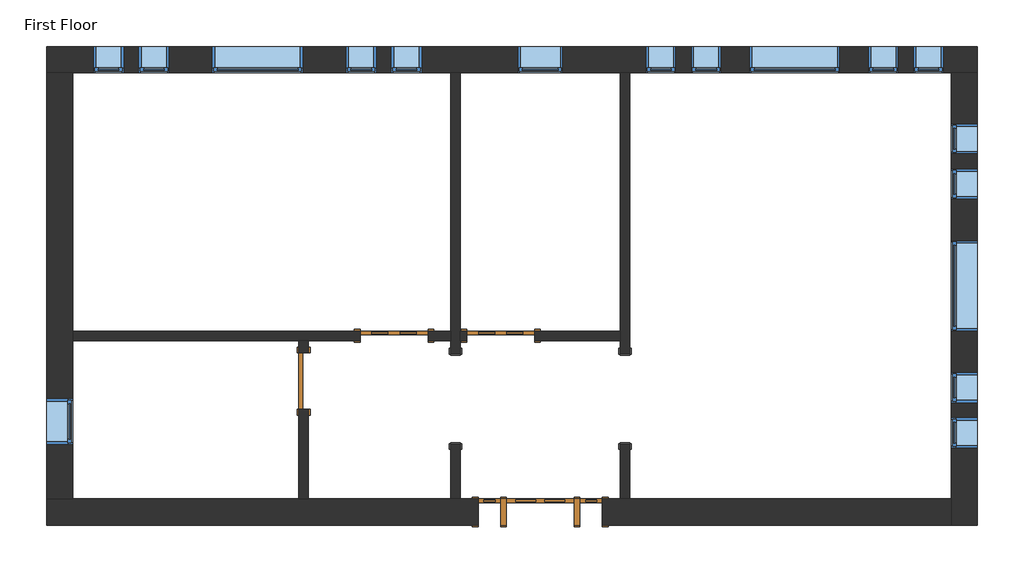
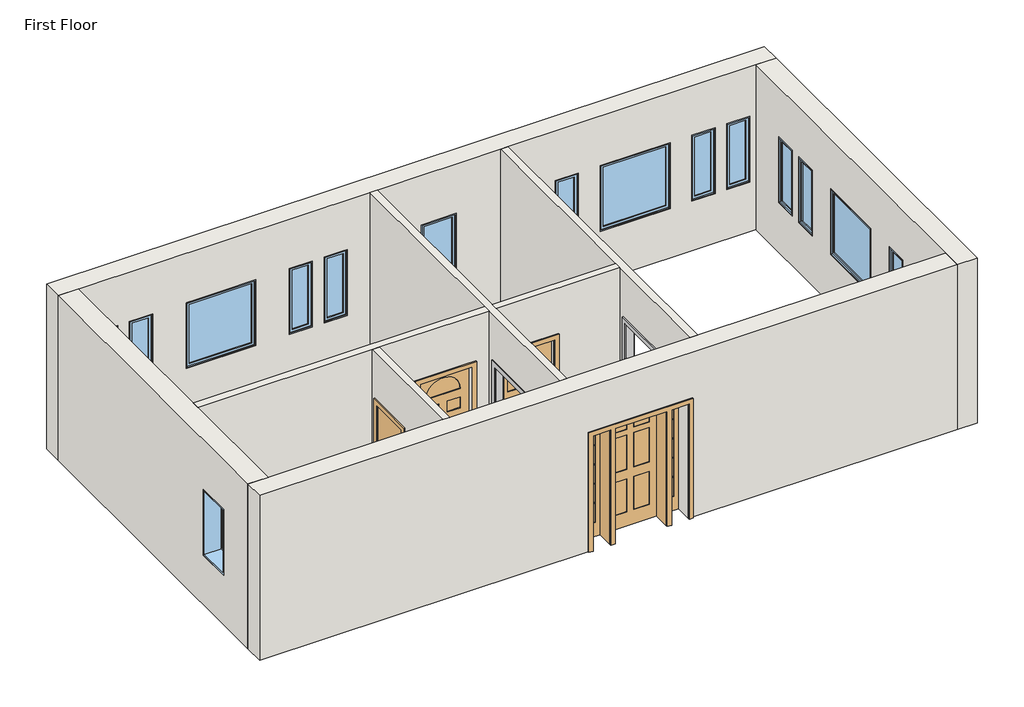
# One storey: 17 windows, 8 walls, 4 doors, 2 proxies.
"""IFC4 building model written with IfcOpenShell, lengths in millimetres."""

from ifc_helpers import new_model, si_unit, frame, origin, place, context, project, spatial, polyline, outline, extrude, faceted_brep, transform, mapped, element, save
from components import proxy_f44482cc, door_829da954, door_2e3b4da2, door_4d6c7550, door_ffdb1193, window_da97879f, window_d61ef850, window_60baf983, window_6eb97611

model = new_model("IFC4")

# Units and contexts
model_context = context("Model", 3, world=origin())
ifc_project = project(units=[si_unit("LENGTHUNIT", "METRE", prefix="MILLI")], contexts=[model_context])

# Site, building, storey
site = spatial("IfcSite", under=ifc_project)
building = spatial("IfcBuilding", under=site)
storey = spatial("IfcBuildingStorey", under=building, Name="First Floor", Elevation=0.0)

# Proxies
placement = place(None, origin())
proxy_shape = proxy_f44482cc(model_context)
element("IfcBuildingElementProxy", 1, Name="Passage Opening-Cased : 48\" x 84\"", ObjectType="Passage Opening-Cased : 48\" x 84\"", at=placement, inside=storey, context=model_context, shape_type="MappedRepresentation", body=[
    mapped(proxy_shape, transform((3208.4428612, 1537.2944757, 0.0), x_axis=(0.0, 1.0, 0.0), y_axis=(-1.0, 0.0, 0.0), z_axis=(0.0, 0.0, 1.0))),
])
element("IfcBuildingElementProxy", 2, Name="Passage Opening-Cased : 48\" x 84\"", ObjectType="Passage Opening-Cased : 48\" x 84\"", at=placement, inside=storey, context=model_context, shape_type="MappedRepresentation", body=[
    mapped(proxy_shape, transform((922.4428612, 1537.2944757, 0.0), x_axis=(0.0, 1.0, 0.0), y_axis=(-1.0, 0.0, 0.0), z_axis=(0.0, 0.0, 1.0))),
])

# Doors
door_shape = door_829da954(model_context)
element("IfcDoor", 3, ObjectType="Single-Decorative 2 : 36\" x 84\"", at=placement, inside=storey, context=model_context, shape_type="MappedRepresentation", body=[
    mapped(door_shape, transform((1532.0428612, 2378.418319, 0.0), x_axis=(-1.0, 0.0, 0.0), y_axis=(0.0, -1.0, 0.0), z_axis=(0.0, 0.0, 1.0))),
])
door_2_shape = door_2e3b4da2(model_context)
element("IfcDoor", 4, ObjectType="Single-Decorative 2 : 36\" x 84\"", at=placement, inside=storey, context=model_context, shape_type="MappedRepresentation", body=[
    mapped(door_2_shape, transform((95.3553612, 2378.418319, 0.0), x_axis=(1.0, 0.0, 0.0), y_axis=(0.0, 1.0, 0.0), z_axis=(0.0, 0.0, 1.0))),
])
door_3_shape = door_4d6c7550(model_context)
element("IfcDoor", 5, ObjectType="Single-Flush : 30\" x 84\"", at=placement, inside=storey, context=model_context, shape_type="MappedRepresentation", body=[
    mapped(door_3_shape, transform((-1123.8446388, 1768.818319, 0.0), x_axis=(0.0, 1.0, 0.0), y_axis=(-1.0, 0.0, 0.0), z_axis=(0.0, 0.0, 1.0))),
])
door_4_shape = door_ffdb1193(model_context)
element("IfcDoor", 6, ObjectType="Single-Raised Panel with Sidelights : 36\" x 84\"", at=placement, inside=storey, context=model_context, shape_type="MappedRepresentation", body=[
    mapped(door_4_shape, transform((2065.4428612, 5.105819, 0.0), x_axis=(1.0, 0.0, 0.0), y_axis=(0.0, 1.0, 0.0), z_axis=(0.0, 0.0, 1.0))),
])

# Walls
element("IfcWall", 7, ObjectType="Exterior - Brick on Mtl. Stud", at=placement, inside=storey, context=model_context, shape_type="Brep", body=[
    faceted_brep([(-4587.7696388, 5924.893319, 0.0), (-4235.3446388, 5924.893319, 0.0), (858.9428612, 5924.893319, 0.0), (985.9428612, 5924.893319, 0.0), (3144.9428612, 5924.893319, 0.0), (3271.9428612, 5924.893319, 0.0), (7604.2303612, 5924.893319, 0.0), (7956.6553612, 5924.893319, 0.0), (7956.6553612, 5924.893319, 3048.0), (7604.2303612, 5924.893319, 3048.0), (3271.9428612, 5924.893319, 3048.0), (3144.9428612, 5924.893319, 3048.0), (985.9428612, 5924.893319, 3048.0), (858.9428612, 5924.893319, 3048.0), (-4235.3446388, 5924.893319, 3048.0), (-4587.7696388, 5924.893319, 3048.0), (1760.6428612, 5924.893319, 2133.6), (2370.2428612, 5924.893319, 2133.6), (2370.2428612, 5924.893319, 914.4), (1760.6428612, 5924.893319, 914.4), (-2354.1571388, 5924.893319, 2133.6), (-1134.9571388, 5924.893319, 2133.6), (-1134.9571388, 5924.893319, 914.4), (-2354.1571388, 5924.893319, 914.4), (4884.8428612, 5924.893319, 2133.6), (6104.0428612, 5924.893319, 2133.6), (6104.0428612, 5924.893319, 914.4), (4884.8428612, 5924.893319, 914.4), (-3954.3571388, 5924.893319, 2133.6), (-3547.9571388, 5924.893319, 2133.6), (-3547.9571388, 5924.893319, 914.4), (-3954.3571388, 5924.893319, 914.4), (-3344.7571388, 5924.893319, 2133.6), (-2938.3571388, 5924.893319, 2133.6), (-2938.3571388, 5924.893319, 914.4), (-3344.7571388, 5924.893319, 914.4), (-144.3571388, 5924.893319, 2133.6), (-144.3571388, 5924.893319, 914.4), (-550.7571388, 5924.893319, 914.4), (-550.7571388, 5924.893319, 2133.6), (465.2428612, 5924.893319, 2133.6), (465.2428612, 5924.893319, 914.4), (58.8428612, 5924.893319, 914.4), (58.8428612, 5924.893319, 2133.6), (4097.4428612, 5924.893319, 2133.6), (4503.8428612, 5924.893319, 2133.6), (4503.8428612, 5924.893319, 914.4), (4097.4428612, 5924.893319, 914.4), (3487.8428612, 5924.893319, 2133.6), (3894.2428612, 5924.893319, 2133.6), (3894.2428612, 5924.893319, 914.4), (3487.8428612, 5924.893319, 914.4), (7094.6428612, 5924.893319, 2133.6), (7501.0428612, 5924.893319, 2133.6), (7501.0428612, 5924.893319, 914.4), (7094.6428612, 5924.893319, 914.4), (6485.0428612, 5924.893319, 2133.6), (6891.4428612, 5924.893319, 2133.6), (6891.4428612, 5924.893319, 914.4), (6485.0428612, 5924.893319, 914.4), (-4587.7696388, 6277.318319, 0.0), (-4587.7696388, 6277.318319, 3048.0), (7956.6553612, 6277.318319, 3048.0), (7956.6553612, 6277.318319, 0.0), (1760.6428612, 6277.318319, 2133.6), (1760.6428612, 6277.318319, 914.4), (2370.2428612, 6277.318319, 914.4), (2370.2428612, 6277.318319, 2133.6), (-2354.1571388, 6277.318319, 2133.6), (-2354.1571388, 6277.318319, 914.4), (-1134.9571388, 6277.318319, 914.4), (-1134.9571388, 6277.318319, 2133.6), (4884.8428612, 6277.318319, 2133.6), (4884.8428612, 6277.318319, 914.4), (6104.0428612, 6277.318319, 914.4), (6104.0428612, 6277.318319, 2133.6), (-3954.3571388, 6277.318319, 2133.6), (-3954.3571388, 6277.318319, 914.4), (-3547.9571388, 6277.318319, 914.4), (-3547.9571388, 6277.318319, 2133.6), (-3344.7571388, 6277.318319, 2133.6), (-3344.7571388, 6277.318319, 914.4), (-2938.3571388, 6277.318319, 914.4), (-2938.3571388, 6277.318319, 2133.6), (-144.3571388, 6277.318319, 2133.6), (-550.7571388, 6277.318319, 2133.6), (-550.7571388, 6277.318319, 914.4), (-144.3571388, 6277.318319, 914.4), (465.2428612, 6277.318319, 2133.6), (58.8428612, 6277.318319, 2133.6), (58.8428612, 6277.318319, 914.4), (465.2428612, 6277.318319, 914.4), (4097.4428612, 6277.318319, 2133.6), (4097.4428612, 6277.318319, 914.4), (4503.8428612, 6277.318319, 914.4), (4503.8428612, 6277.318319, 2133.6), (3487.8428612, 6277.318319, 2133.6), (3487.8428612, 6277.318319, 914.4), (3894.2428612, 6277.318319, 914.4), (3894.2428612, 6277.318319, 2133.6), (7094.6428612, 6277.318319, 2133.6), (7094.6428612, 6277.318319, 914.4), (7501.0428612, 6277.318319, 914.4), (7501.0428612, 6277.318319, 2133.6), (6485.0428612, 6277.318319, 2133.6), (6485.0428612, 6277.318319, 914.4), (6891.4428612, 6277.318319, 914.4), (6891.4428612, 6277.318319, 2133.6)], [[[0, 1, 2, 3, 4, 5, 6, 7, 8, 9, 10, 11, 12, 13, 14, 15], [16, 17, 18, 19], [20, 21, 22, 23], [24, 25, 26, 27], [28, 29, 30, 31], [32, 33, 34, 35], [36, 37, 38, 39], [40, 41, 42, 43], [44, 45, 46, 47], [48, 49, 50, 51], [52, 53, 54, 55], [56, 57, 58, 59]], [[60, 61, 62, 63], [64, 65, 66, 67], [68, 69, 70, 71], [72, 73, 74, 75], [76, 77, 78, 79], [80, 81, 82, 83], [84, 85, 86, 87], [88, 89, 90, 91], [92, 93, 94, 95], [96, 97, 98, 99], [100, 101, 102, 103], [104, 105, 106, 107]], [[7, 6, 5, 4, 3, 2, 1, 0, 60, 63]], [[15, 14, 13, 12, 11, 10, 9, 8, 62, 61]], [[8, 7, 63, 62]], [[0, 15, 61, 60]], [[65, 64, 16, 19]], [[66, 65, 19, 18]], [[67, 66, 18, 17]], [[64, 67, 17, 16]], [[69, 68, 20, 23]], [[70, 69, 23, 22]], [[71, 70, 22, 21]], [[68, 71, 21, 20]], [[73, 72, 24, 27]], [[74, 73, 27, 26]], [[75, 74, 26, 25]], [[72, 75, 25, 24]], [[77, 76, 28, 31]], [[78, 77, 31, 30]], [[79, 78, 30, 29]], [[76, 79, 29, 28]], [[81, 80, 32, 35]], [[82, 81, 35, 34]], [[83, 82, 34, 33]], [[80, 83, 33, 32]], [[37, 36, 84, 87]], [[38, 37, 87, 86]], [[39, 38, 86, 85]], [[36, 39, 85, 84]], [[41, 40, 88, 91]], [[42, 41, 91, 90]], [[43, 42, 90, 89]], [[40, 43, 89, 88]], [[93, 92, 44, 47]], [[94, 93, 47, 46]], [[95, 94, 46, 45]], [[92, 95, 45, 44]], [[97, 96, 48, 51]], [[98, 97, 51, 50]], [[99, 98, 50, 49]], [[96, 99, 49, 48]], [[101, 100, 52, 55]], [[102, 101, 55, 54]], [[103, 102, 54, 53]], [[100, 103, 53, 52]], [[105, 104, 56, 59]], [[106, 105, 59, 58]], [[107, 106, 58, 57]], [[104, 107, 57, 56]]]),
])
element("IfcWall", 8, ObjectType="Exterior - Brick on Mtl. Stud", at=placement, inside=storey, context=model_context, shape_type="Brep", body=[
    faceted_brep([(7604.2303612, 5924.893319, 0.0), (7604.2303612, 181.318319, 0.0), (7604.2303612, -171.106681, 0.0), (7604.2303612, -171.106681, 3048.0), (7604.2303612, 181.318319, 3048.0), (7604.2303612, 5924.893319, 3048.0), (7604.2303612, 3662.705819, 2133.6), (7604.2303612, 2443.505819, 2133.6), (7604.2303612, 2443.505819, 914.4), (7604.2303612, 3662.705819, 914.4), (7604.2303612, 4627.905819, 2133.6), (7604.2303612, 4221.505819, 2133.6), (7604.2303612, 4221.505819, 914.4), (7604.2303612, 4627.905819, 914.4), (7604.2303612, 5237.505819, 2133.6), (7604.2303612, 4831.105819, 2133.6), (7604.2303612, 4831.105819, 914.4), (7604.2303612, 5237.505819, 914.4), (7604.2303612, 1275.105819, 2133.6), (7604.2303612, 868.705819, 2133.6), (7604.2303612, 868.705819, 914.4), (7604.2303612, 1275.105819, 914.4), (7604.2303612, 1884.705819, 2133.6), (7604.2303612, 1478.305819, 2133.6), (7604.2303612, 1478.305819, 914.4), (7604.2303612, 1884.705819, 914.4), (7956.6553612, 5924.893319, 0.0), (7956.6553612, 5924.893319, 3048.0), (7956.6553612, -171.106681, 3048.0), (7956.6553612, -171.106681, 0.0), (7956.6553612, 3662.705819, 2133.6), (7956.6553612, 3662.705819, 914.4), (7956.6553612, 2443.505819, 914.4), (7956.6553612, 2443.505819, 2133.6), (7956.6553612, 4627.905819, 2133.6), (7956.6553612, 4627.905819, 914.4), (7956.6553612, 4221.505819, 914.4), (7956.6553612, 4221.505819, 2133.6), (7956.6553612, 5237.505819, 2133.6), (7956.6553612, 5237.505819, 914.4), (7956.6553612, 4831.105819, 914.4), (7956.6553612, 4831.105819, 2133.6), (7956.6553612, 1275.105819, 2133.6), (7956.6553612, 1275.105819, 914.4), (7956.6553612, 868.705819, 914.4), (7956.6553612, 868.705819, 2133.6), (7956.6553612, 1884.705819, 2133.6), (7956.6553612, 1884.705819, 914.4), (7956.6553612, 1478.305819, 914.4), (7956.6553612, 1478.305819, 2133.6)], [[[0, 1, 2, 3, 4, 5], [6, 7, 8, 9], [10, 11, 12, 13], [14, 15, 16, 17], [18, 19, 20, 21], [22, 23, 24, 25]], [[26, 27, 28, 29], [30, 31, 32, 33], [34, 35, 36, 37], [38, 39, 40, 41], [42, 43, 44, 45], [46, 47, 48, 49]], [[2, 1, 0, 26, 29]], [[5, 4, 3, 28, 27]], [[0, 5, 27, 26]], [[3, 2, 29, 28]], [[31, 30, 6, 9]], [[32, 31, 9, 8]], [[33, 32, 8, 7]], [[30, 33, 7, 6]], [[35, 34, 10, 13]], [[36, 35, 13, 12]], [[37, 36, 12, 11]], [[34, 37, 11, 10]], [[39, 38, 14, 17]], [[40, 39, 17, 16]], [[41, 40, 16, 15]], [[38, 41, 15, 14]], [[43, 42, 18, 21]], [[44, 43, 21, 20]], [[45, 44, 20, 19]], [[42, 45, 19, 18]], [[47, 46, 22, 25]], [[48, 47, 25, 24]], [[49, 48, 24, 23]], [[46, 49, 23, 22]]]),
])
element("IfcWall", 9, ObjectType="Exterior - Brick on Mtl. Stud", at=placement, inside=storey, context=model_context, shape_type="Brep", body=[
    faceted_brep([(7604.2303612, 181.318319, 0.0), (3271.9428612, 181.318319, 0.0), (3144.9428612, 181.318319, 0.0), (2903.6428612, 181.318319, 0.0), (2903.6428612, 181.318319, 2133.6), (1227.2428612, 181.318319, 2133.6), (1227.2428612, 181.318319, 0.0), (985.9428612, 181.318319, 0.0), (858.9428612, 181.318319, 0.0), (-1060.3446388, 181.318319, 0.0), (-1187.3446388, 181.318319, 0.0), (-4235.3446388, 181.318319, 0.0), (-4587.7696388, 181.318319, 0.0), (-4587.7696388, 181.318319, 3048.0), (-4235.3446388, 181.318319, 3048.0), (-1187.3446388, 181.318319, 3048.0), (-1060.3446388, 181.318319, 3048.0), (858.9428612, 181.318319, 3048.0), (985.9428612, 181.318319, 3048.0), (3144.9428612, 181.318319, 3048.0), (3271.9428612, 181.318319, 3048.0), (7604.2303612, 181.318319, 3048.0), (2903.6428612, -171.106681, 2133.6), (2903.6428612, -171.106681, 0.0), (7604.2303612, -171.106681, 0.0), (7604.2303612, -171.106681, 3048.0), (-4587.7696388, -171.106681, 3048.0), (-4587.7696388, -171.106681, 0.0), (1227.2428612, -171.106681, 0.0), (1227.2428612, -171.106681, 2133.6)], [[[0, 1, 2, 3, 4, 5, 6, 7, 8, 9, 10, 11, 12, 13, 14, 15, 16, 17, 18, 19, 20, 21]], [[22, 23, 24, 25, 26, 27, 28, 29]], [[28, 27, 12, 11, 10, 9, 8, 7, 6]], [[24, 23, 3, 2, 1, 0]], [[21, 20, 19, 18, 17, 16, 15, 14, 13, 26, 25]], [[0, 21, 25, 24]], [[13, 12, 27, 26]], [[4, 3, 23, 22]], [[5, 4, 22, 29]], [[6, 5, 29, 28]]]),
])
element("IfcWall", 10, ObjectType="Exterior - Brick on Mtl. Stud", at=placement, inside=storey, context=model_context, shape_type="Brep", body=[
    faceted_brep([(-4235.3446388, 181.318319, 0.0), (-4235.3446388, 2314.918319, 0.0), (-4235.3446388, 2441.918319, 0.0), (-4235.3446388, 5924.893319, 0.0), (-4235.3446388, 5924.893319, 3048.0), (-4235.3446388, 2441.918319, 3048.0), (-4235.3446388, 2314.918319, 3048.0), (-4235.3446388, 181.318319, 3048.0), (-4235.3446388, 919.505819, 2133.6), (-4235.3446388, 1529.105819, 2133.6), (-4235.3446388, 1529.105819, 914.4), (-4235.3446388, 919.505819, 914.4), (-4587.7696388, 181.318319, 0.0), (-4587.7696388, 181.318319, 3048.0), (-4587.7696388, 5924.893319, 3048.0), (-4587.7696388, 5924.893319, 0.0), (-4587.7696388, 919.505819, 2133.6), (-4587.7696388, 919.505819, 914.4), (-4587.7696388, 1529.105819, 914.4), (-4587.7696388, 1529.105819, 2133.6)], [[[0, 1, 2, 3, 4, 5, 6, 7], [8, 9, 10, 11]], [[12, 13, 14, 15], [16, 17, 18, 19]], [[3, 2, 1, 0, 12, 15]], [[7, 6, 5, 4, 14, 13]], [[0, 7, 13, 12]], [[4, 3, 15, 14]], [[17, 16, 8, 11]], [[18, 17, 11, 10]], [[19, 18, 10, 9]], [[16, 19, 9, 8]]]),
])
element("IfcWall", 11, ObjectType="Interior - 5\" Partition (2-hr)", at=placement, inside=storey, context=model_context, shape_type="Brep", body=[
    faceted_brep([(3144.9428612, 5924.893319, 0.0), (3144.9428612, 2441.918319, 0.0), (3144.9428612, 2314.918319, 0.0), (3144.9428612, 2138.705819, 0.0), (3144.9428612, 2138.705819, 2133.6), (3144.9428612, 919.505819, 2133.6), (3144.9428612, 919.505819, 0.0), (3144.9428612, 181.318319, 0.0), (3144.9428612, 181.318319, 3048.0), (3144.9428612, 2314.918319, 3048.0), (3144.9428612, 2441.918319, 3048.0), (3144.9428612, 5924.893319, 3048.0), (3271.9428612, 2138.705819, 2133.6), (3271.9428612, 2138.705819, 0.0), (3271.9428612, 5924.893319, 0.0), (3271.9428612, 5924.893319, 3048.0), (3271.9428612, 181.318319, 3048.0), (3271.9428612, 181.318319, 0.0), (3271.9428612, 919.505819, 0.0), (3271.9428612, 919.505819, 2133.6)], [[[0, 1, 2, 3, 4, 5, 6, 7, 8, 9, 10, 11]], [[12, 13, 14, 15, 16, 17, 18, 19]], [[18, 17, 7, 6]], [[14, 13, 3, 2, 1, 0]], [[11, 10, 9, 8, 16, 15]], [[0, 11, 15, 14]], [[8, 7, 17, 16]], [[6, 5, 19, 18]], [[4, 3, 13, 12]], [[5, 4, 12, 19]]]),
])
element("IfcWall", 12, ObjectType="Interior - 5\" Partition (2-hr)", at=placement, inside=storey, context=model_context, shape_type="Brep", body=[
    faceted_brep([(858.9428612, 5924.893319, 0.0), (858.9428612, 2441.918319, 0.0), (858.9428612, 2314.918319, 0.0), (858.9428612, 2138.705819, 0.0), (858.9428612, 2138.705819, 2133.6), (858.9428612, 919.505819, 2133.6), (858.9428612, 919.505819, 0.0), (858.9428612, 181.318319, 0.0), (858.9428612, 181.318319, 3048.0), (858.9428612, 2314.918319, 3048.0), (858.9428612, 2441.918319, 3048.0), (858.9428612, 5924.893319, 3048.0), (985.9428612, 2138.705819, 2133.6), (985.9428612, 2138.705819, 0.0), (985.9428612, 2314.918319, 0.0), (985.9428612, 2441.918319, 0.0), (985.9428612, 5924.893319, 0.0), (985.9428612, 5924.893319, 3048.0), (985.9428612, 2441.918319, 3048.0), (985.9428612, 2314.918319, 3048.0), (985.9428612, 181.318319, 3048.0), (985.9428612, 181.318319, 0.0), (985.9428612, 919.505819, 0.0), (985.9428612, 919.505819, 2133.6)], [[[0, 1, 2, 3, 4, 5, 6, 7, 8, 9, 10, 11]], [[12, 13, 14, 15, 16, 17, 18, 19, 20, 21, 22, 23]], [[22, 21, 7, 6]], [[16, 15, 14, 13, 3, 2, 1, 0]], [[11, 10, 9, 8, 20, 19, 18, 17]], [[0, 11, 17, 16]], [[8, 7, 21, 20]], [[6, 5, 23, 22]], [[4, 3, 13, 12]], [[5, 4, 12, 23]]]),
])
element("IfcWall", 13, ObjectType="Interior - 5\" Partition (2-hr)", at=placement, inside=storey, context=model_context, shape_type="Brep", body=[
    faceted_brep([(-4235.3446388, 2314.918319, 3048.0), (-4235.3446388, 2314.918319, 0.0), (-1187.3446388, 2314.918319, 0.0), (-1060.3446388, 2314.918319, 0.0), (-361.8446388, 2314.918319, 0.0), (-361.8446388, 2314.918319, 2133.6), (552.5553612, 2314.918319, 2133.6), (552.5553612, 2314.918319, 0.0), (858.9428612, 2314.918319, 0.0), (858.9428612, 2314.918319, 3048.0), (-1060.3446388, 2314.918319, 3048.0), (-1187.3446388, 2314.918319, 3048.0), (-4235.3446388, 2441.918319, 0.0), (-4235.3446388, 2441.918319, 3048.0), (858.9428612, 2441.918319, 3048.0), (858.9428612, 2441.918319, 0.0), (552.5553612, 2441.918319, 0.0), (552.5553612, 2441.918319, 2133.6), (-361.8446388, 2441.918319, 2133.6), (-361.8446388, 2441.918319, 0.0)], [[[0, 1, 2, 3, 4, 5, 6, 7, 8, 9, 10, 11]], [[12, 13, 14, 15, 16, 17, 18, 19]], [[1, 12, 19, 4, 3, 2]], [[7, 16, 15, 8]], [[13, 0, 11, 10, 9, 14]], [[1, 0, 13, 12]], [[9, 8, 15, 14]], [[17, 16, 7, 6]], [[18, 17, 6, 5]], [[19, 18, 5, 4]]]),
    faceted_brep([(3144.9428612, 2314.918319, 0.0), (3144.9428612, 2314.918319, 3048.0), (985.9428612, 2314.918319, 3048.0), (985.9428612, 2314.918319, 0.0), (1074.8428612, 2314.918319, 0.0), (1074.8428612, 2314.918319, 2133.6), (1989.2428612, 2314.918319, 2133.6), (1989.2428612, 2314.918319, 0.0), (3144.9428612, 2441.918319, 3048.0), (3144.9428612, 2441.918319, 0.0), (1989.2428612, 2441.918319, 0.0), (1989.2428612, 2441.918319, 2133.6), (1074.8428612, 2441.918319, 2133.6), (1074.8428612, 2441.918319, 0.0), (985.9428612, 2441.918319, 0.0), (985.9428612, 2441.918319, 3048.0)], [[[0, 1, 2, 3, 4, 5, 6, 7]], [[8, 9, 10, 11, 12, 13, 14, 15]], [[9, 0, 7, 10]], [[13, 4, 3, 14]], [[1, 8, 15, 2]], [[1, 0, 9, 8]], [[3, 2, 15, 14]], [[5, 4, 13, 12]], [[6, 5, 12, 11]], [[7, 6, 11, 10]]]),
])
element("IfcWall", 14, ObjectType="Interior - 5\" Partition (2-hr)", at=placement, inside=storey, context=model_context, shape_type="SweptSolid", body=[
    extrude(outline(polyline([(2314.918319, 0.0), (2149.818319, 0.0), (2149.818319, 2133.6), (1387.818319, 2133.6), (1387.818319, 0.0), (181.318319, 0.0), (181.318319, 3048.0), (2314.918319, 3048.0), (2314.918319, 0.0)])), frame((-1187.3446388, 0.0, 0.0), z_axis=(1.0, 0.0, 0.0), x_axis=(0.0, 1.0, 0.0)), (0.0, 0.0, 1.0), 127.0),
])

# Windows
window_shape = window_da97879f(model_context)
element("IfcWindow", 15, ObjectType="Fixed : 16\" x 48\"", at=placement, inside=storey, context=model_context, shape_type="MappedRepresentation", body=[
    mapped(window_shape, transform((-3789.2571388, 6101.105819, 0.0), x_axis=(-1.0, 0.0, 0.0), y_axis=(0.0, -1.0, 0.0), z_axis=(0.0, 0.0, 1.0))),
])
element("IfcWindow", 16, ObjectType="Fixed : 16\" x 48\"", at=placement, inside=storey, context=model_context, shape_type="MappedRepresentation", body=[
    mapped(window_shape, transform((-3179.6571388, 6101.105819, 0.0), x_axis=(-1.0, 0.0, 0.0), y_axis=(0.0, -1.0, 0.0), z_axis=(0.0, 0.0, 1.0))),
])
element("IfcWindow", 17, ObjectType="Fixed : 16\" x 48\"", at=placement, inside=storey, context=model_context, shape_type="MappedRepresentation", body=[
    mapped(window_shape, transform((3652.9428612, 6101.105819, 0.0), x_axis=(-1.0, 0.0, 0.0), y_axis=(0.0, -1.0, 0.0), z_axis=(0.0, 0.0, 1.0))),
])
element("IfcWindow", 18, ObjectType="Fixed : 16\" x 48\"", at=placement, inside=storey, context=model_context, shape_type="MappedRepresentation", body=[
    mapped(window_shape, transform((4262.5428612, 6101.105819, 0.0), x_axis=(-1.0, 0.0, 0.0), y_axis=(0.0, -1.0, 0.0), z_axis=(0.0, 0.0, 1.0))),
])
element("IfcWindow", 19, ObjectType="Fixed : 16\" x 48\"", at=placement, inside=storey, context=model_context, shape_type="MappedRepresentation", body=[
    mapped(window_shape, transform((6650.1428612, 6101.105819, 0.0), x_axis=(-1.0, 0.0, 0.0), y_axis=(0.0, -1.0, 0.0), z_axis=(0.0, 0.0, 1.0))),
])
element("IfcWindow", 20, ObjectType="Fixed : 16\" x 48\"", at=placement, inside=storey, context=model_context, shape_type="MappedRepresentation", body=[
    mapped(window_shape, transform((7259.7428612, 6101.105819, 0.0), x_axis=(-1.0, 0.0, 0.0), y_axis=(0.0, -1.0, 0.0), z_axis=(0.0, 0.0, 1.0))),
])
element("IfcWindow", 21, ObjectType="Fixed : 16\" x 48\"", at=placement, inside=storey, context=model_context, shape_type="MappedRepresentation", body=[
    mapped(window_shape, transform((7780.4428612, 5072.405819, 0.0), x_axis=(0.0, 1.0, 0.0), y_axis=(-1.0, 0.0, 0.0), z_axis=(0.0, 0.0, 1.0))),
])
element("IfcWindow", 22, ObjectType="Fixed : 16\" x 48\"", at=placement, inside=storey, context=model_context, shape_type="MappedRepresentation", body=[
    mapped(window_shape, transform((7780.4428612, 4462.805819, 0.0), x_axis=(0.0, 1.0, 0.0), y_axis=(-1.0, 0.0, 0.0), z_axis=(0.0, 0.0, 1.0))),
])
element("IfcWindow", 23, ObjectType="Fixed : 16\" x 48\"", at=placement, inside=storey, context=model_context, shape_type="MappedRepresentation", body=[
    mapped(window_shape, transform((7780.4428612, 1719.605819, 0.0), x_axis=(0.0, 1.0, 0.0), y_axis=(-1.0, 0.0, 0.0), z_axis=(0.0, 0.0, 1.0))),
])
element("IfcWindow", 24, ObjectType="Fixed : 16\" x 48\"", at=placement, inside=storey, context=model_context, shape_type="MappedRepresentation", body=[
    mapped(window_shape, transform((7780.4428612, 1110.005819, 0.0), x_axis=(0.0, 1.0, 0.0), y_axis=(-1.0, 0.0, 0.0), z_axis=(0.0, 0.0, 1.0))),
])
window_2_shape = window_d61ef850(model_context)
element("IfcWindow", 25, ObjectType="Fixed : 16\" x 48\"", at=placement, inside=storey, context=model_context, shape_type="MappedRepresentation", body=[
    mapped(window_2_shape, transform((300.1428612, 6101.105819, 0.0), x_axis=(1.0, 0.0, 0.0), y_axis=(0.0, 1.0, 0.0), z_axis=(0.0, 0.0, 1.0))),
])
element("IfcWindow", 26, ObjectType="Fixed : 16\" x 48\"", at=placement, inside=storey, context=model_context, shape_type="MappedRepresentation", body=[
    mapped(window_2_shape, transform((-309.4571388, 6101.105819, 0.0), x_axis=(1.0, 0.0, 0.0), y_axis=(0.0, 1.0, 0.0), z_axis=(0.0, 0.0, 1.0))),
])
window_3_shape = window_60baf983(model_context)
element("IfcWindow", 27, ObjectType="Fixed : 24\" x 48\"", at=placement, inside=storey, context=model_context, shape_type="MappedRepresentation", body=[
    mapped(window_3_shape, transform((2027.3428612, 6101.105819, 0.0), x_axis=(-1.0, 0.0, 0.0), y_axis=(0.0, -1.0, 0.0), z_axis=(0.0, 0.0, 1.0))),
])
element("IfcWindow", 28, ObjectType="Fixed : 24\" x 48\"", at=placement, inside=storey, context=model_context, shape_type="MappedRepresentation", body=[
    mapped(window_3_shape, transform((-4411.5571388, 1186.205819, 0.0), x_axis=(0.0, -1.0, 0.0), y_axis=(1.0, 0.0, 0.0), z_axis=(0.0, 0.0, 1.0))),
])
window_4_shape = window_6eb97611(model_context)
element("IfcWindow", 29, ObjectType="Fixed : 48\" x 48\"", at=placement, inside=storey, context=model_context, shape_type="MappedRepresentation", body=[
    mapped(window_4_shape, transform((-1782.6571388, 6101.105819, 0.0), x_axis=(-1.0, 0.0, 0.0), y_axis=(0.0, -1.0, 0.0), z_axis=(0.0, 0.0, 1.0))),
])
element("IfcWindow", 30, ObjectType="Fixed : 48\" x 48\"", at=placement, inside=storey, context=model_context, shape_type="MappedRepresentation", body=[
    mapped(window_4_shape, transform((5456.3428612, 6101.105819, 0.0), x_axis=(-1.0, 0.0, 0.0), y_axis=(0.0, -1.0, 0.0), z_axis=(0.0, 0.0, 1.0))),
])
element("IfcWindow", 31, ObjectType="Fixed : 48\" x 48\"", at=placement, inside=storey, context=model_context, shape_type="MappedRepresentation", body=[
    mapped(window_4_shape, transform((7780.4428612, 3091.205819, 0.0), x_axis=(0.0, 1.0, 0.0), y_axis=(-1.0, 0.0, 0.0), z_axis=(0.0, 0.0, 1.0))),
])

save(model, "model.ifc")
